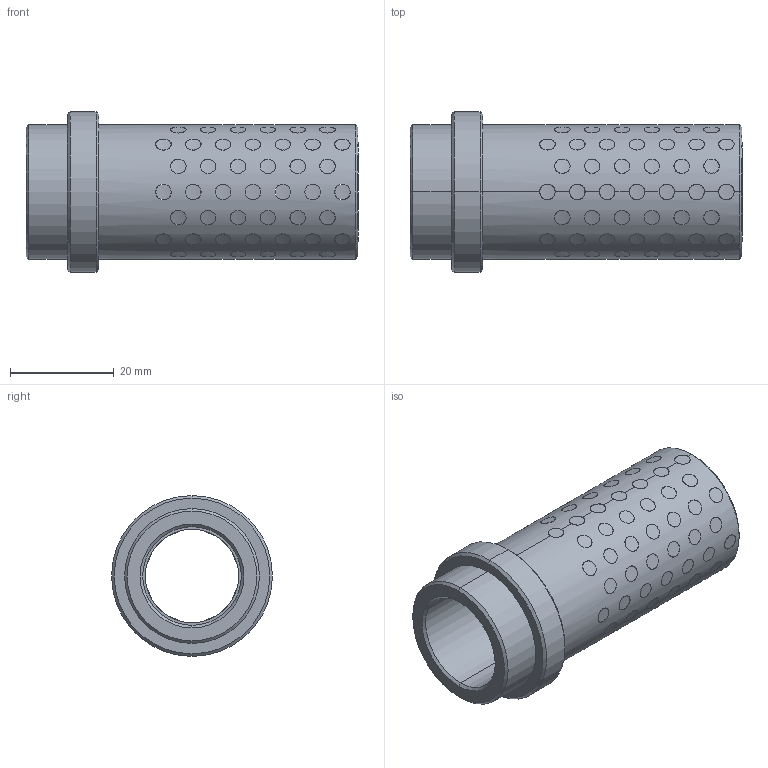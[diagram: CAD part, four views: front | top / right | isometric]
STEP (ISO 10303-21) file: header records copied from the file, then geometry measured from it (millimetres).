
FILE_DESCRIPTION((''),'2;1');
FILE_NAME('G31218056','2017-12-30T',('MANU'),(''),'PRO/ENGINEER BY PARAMETRIC TECHNOLOGY CORPORATION, 2012130','PRO/ENGINEER BY PARAMETRIC TECHNOLOGY CORPORATION, 2012130','');
FILE_SCHEMA(('CONFIG_CONTROL_DESIGN'));
Length unit declared in the file: millimetre
Products named in the file (1): G31218056
Bounding box: 64 x 31 x 31 mm (x, y, z)
Volume: 18240.4 mm3; surface area: 17635.5 mm2
Topology: 105 solids, 105 shells, 651 faces, 1386 edges, 920 vertices
Faces by surface type: cylinder 634, cone 12, plane 5
Entity records: 30042 total; most frequent: CARTESIAN_POINT 17369, ORIENTED_EDGE 2772, DIRECTION 1832, EDGE_CURVE 1386, VERTEX_POINT 920, B_SPLINE_CURVE_WITH_KNOTS 888, EDGE_LOOP 836, AXIS2_PLACEMENT_3D 683
